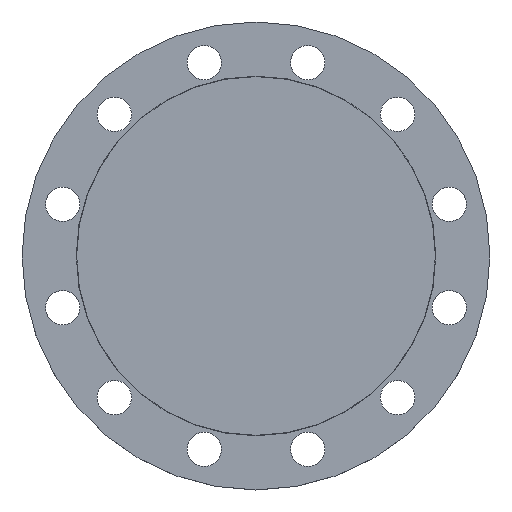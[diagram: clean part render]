
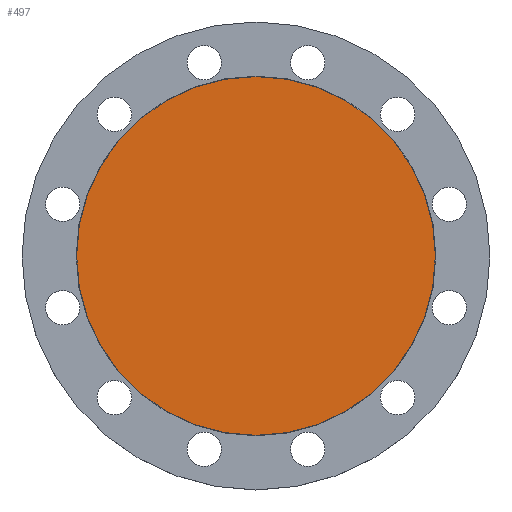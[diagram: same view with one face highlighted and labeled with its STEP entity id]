
A CAD part, top view. The second image highlights one B-rep face of the part: STEP entity #497.
In plain terms, the highlighted planar face has unit normal (0, 0, 1).
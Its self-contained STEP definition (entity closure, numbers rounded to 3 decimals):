
#30 = EDGE_CURVE ( 'NONE', #807, #787, #85, .T. ) ;
#34 = AXIS2_PLACEMENT_3D ( 'NONE', #845, #846, #847 ) ;
#85 = CIRCLE ( 'NONE', #34, 172.5 ) ;
#305 = EDGE_CURVE ( 'NONE', #787, #807, #782, .T. ) ;
#320 = CARTESIAN_POINT ( 'NONE',  ( -172.5, 0., 0. ) ) ;
#334 = AXIS2_PLACEMENT_3D ( 'NONE', #536, #533, #532 ) ;
#337 = CARTESIAN_POINT ( 'NONE',  ( 172.5, 0., 0. ) ) ;
#497 = ADVANCED_FACE ( 'NONE', ( #538 ), #537, .T. ) ;
#532 = DIRECTION ( 'NONE',  ( 1., 0., 0. ) ) ;
#533 = DIRECTION ( 'NONE',  ( 0., 0., 1. ) ) ;
#536 = CARTESIAN_POINT ( 'NONE',  ( 0., 0., 0. ) ) ;
#537 = PLANE ( 'NONE',  #334 ) ;
#538 = FACE_OUTER_BOUND ( 'NONE', #1108, .T. ) ;
#758 = AXIS2_PLACEMENT_3D ( 'NONE', #888, #895, #918 ) ;
#782 = CIRCLE ( 'NONE', #758, 172.5 ) ;
#787 = VERTEX_POINT ( 'NONE', #337 ) ;
#807 = VERTEX_POINT ( 'NONE', #320 ) ;
#845 = CARTESIAN_POINT ( 'NONE',  ( 0., 0., 0. ) ) ;
#846 = DIRECTION ( 'NONE',  ( 0., 0., -1. ) ) ;
#847 = DIRECTION ( 'NONE',  ( -1., 0., 0. ) ) ;
#888 = CARTESIAN_POINT ( 'NONE',  ( 0., 0., 0. ) ) ;
#895 = DIRECTION ( 'NONE',  ( 0., 0., -1. ) ) ;
#918 = DIRECTION ( 'NONE',  ( -1., 0., 0. ) ) ;
#1062 = ORIENTED_EDGE ( 'NONE', *, *, #30, .F. ) ;
#1063 = ORIENTED_EDGE ( 'NONE', *, *, #305, .F. ) ;
#1108 = EDGE_LOOP ( 'NONE', ( #1062, #1063 ) ) ;
